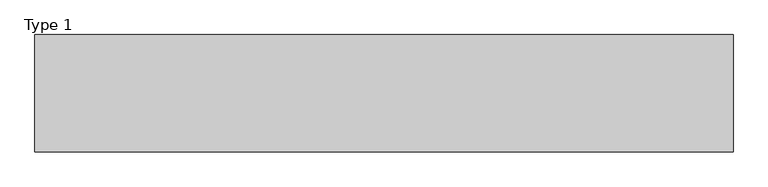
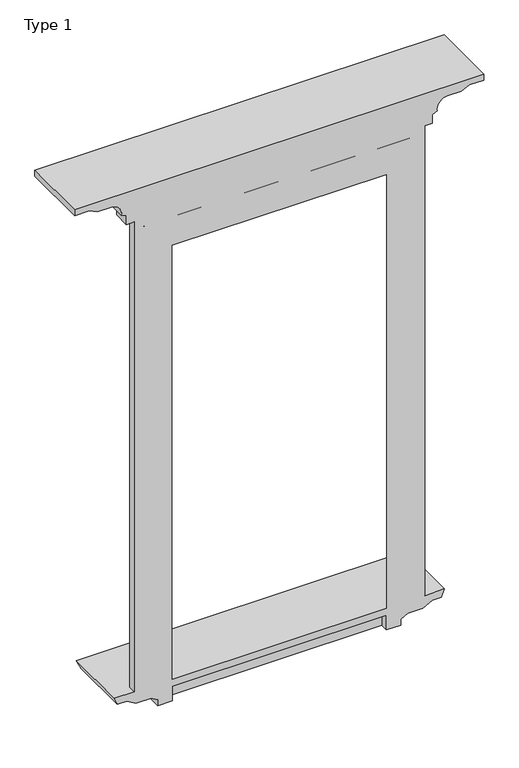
"""IFC4 building model written with IfcOpenShell, lengths in millimetres: proxy geometry, Family1.rfa122231 : Type 1."""

from ifc_helpers import new_model, si_unit, frame, origin, place, context, project, spatial, polyline, circle_curve, ellipse_curve, source, transform, mapped, element, save
from ifc_brep_helpers import plane_surface, revolved_surface, advanced_brep


def type_1_4bf1130a(model_context):
    return source(origin(), model_context, "Body", "AdvancedBrep", [
        advanced_brep(
        [(-1215.0, 300.0, 4370.0), (-1215.0, 300.0, 4330.0), (-1120.0, 300.0, 4330.0), (-1065.6215328, 300.0, 4304.6429043), (-975.6215328, 300.0, 4304.6429043), (-908.1288338, 300.0, 4224.2082378), (-876.4080612, 300.0, 4209.4165986), (-876.4080612, 300.0, 4150.0), (-825.0, 300.0, 4150.0), (-825.0, 300.0, 900.0), (-955.0, 300.0, 900.0), (-935.3873986, 300.0, 850.0), (-875.0, 300.0, 850.0), (-814.3782217, 300.0, 815.0), (-714.3782217, 300.0, 815.0), (-671.0769515, 300.0, 790.0), (-671.0769515, 300.0, 750.0), (-575.0, 300.0, 750.0), (-575.0, 300.0, 850.0), (825.0, 300.0, 850.0), (825.0, 300.0, 750.0), (921.0769515, 300.0, 750.0), (921.0769515, 300.0, 790.0), (964.3782217, 300.0, 815.0), (1064.3782217, 300.0, 815.0), (1125.0, 300.0, 850.0), (1185.3873986, 300.0, 850.0), (1205.0, 300.0, 900.0), (1075.0, 300.0, 900.0), (1075.0, 300.0, 4150.0), (1125.7862829, 300.0, 4150.0), (1125.7862829, 300.0, 4209.4165986), (1157.5070555, 300.0, 4224.2082378), (1224.9997545, 300.0, 4304.6429043), (1314.9997545, 300.0, 4304.6429043), (1369.3782217, 300.0, 4330.0), (1464.3782217, 300.0, 4330.0), (1464.3782217, 300.0, 4370.0), (825.0, 300.0, 3900.0), (825.0, 300.0, 900.0), (-575.0, 300.0, 900.0), (-575.0, 300.0, 3900.0), (1464.3782217, 750.0, 4370.0), (-1215.0, 750.0, 4370.0), (-1215.0, 750.0, 4330.0), (1464.3782217, 750.0, 4330.0), (1369.3782217, 655.0, 4330.0), (-1120.0, 655.0, 4330.0), (-1065.6215328, 600.6215328, 4304.6429043), (1314.9997545, 600.6215328, 4304.6429043), (1224.9997545, 510.6215328, 4304.6429043), (-975.6215328, 510.6215328, 4304.6429043), (-908.1288338, 443.1288338, 4224.2082378), (-876.4080612, 411.4080612, 4209.4165986), (-876.4080612, 411.4080612, 4150.0), (1125.7862829, 411.4080612, 4150.0), (1075.0, 350.7652476, 4150.0), (-825.0, 350.7652476, 4150.0), (1157.5070555, 443.1288338, 4224.2082378), (1125.7862829, 411.4080612, 4209.4165986), (-800.2409318, 350.0, 4118.6790562), (1050.2409318, 350.0, 4118.6790562), (1043.6790562, 331.9713952, 4118.6790562), (-793.6790562, 331.9713952, 4118.6790562), (-800.2409318, 350.0, 4125.2409318), (1050.2409318, 350.0, 4125.2409318), (847.4975663, 326.8115555, 3922.4975663), (847.4975663, 326.8115555, 900.0), (-597.4975663, 326.8115555, 3922.4975663), (-597.4975663, 326.8115555, 900.0), (-637.4975663, 326.8115555, 900.0), (-637.4975663, 326.8115555, 3962.4975663), (887.4975663, 326.8115555, 3962.4975663), (887.4975663, 326.8115555, 900.0), (915.7237184, 328.4289525, 3990.7237184), (915.7237184, 328.4289525, 900.0), (-665.7237184, 328.4289525, 3990.7237184), (-665.7237184, 328.4289525, 900.0), (-695.7237184, 328.4289525, 900.0), (-695.7237184, 328.4289525, 4020.7237184), (945.7237184, 328.4289525, 4020.7237184), (945.7237184, 328.4289525, 900.0), (976.2275363, 350.0, 4051.2275363), (976.2275363, 350.0, 900.0), (-726.2275363, 350.0, 4051.2275363), (-726.2275363, 350.0, 900.0), (-752.6137347, 350.0, 900.0), (-752.6137347, 350.0, 4077.6137347), (1002.6137347, 350.0, 4077.6137347), (1002.6137347, 350.0, 900.0), (1003.6790562, 331.9713952, 4078.6790562), (1003.6790562, 331.9713952, 900.0), (-753.6790562, 331.9713952, 4078.6790562), (-753.6790562, 331.9713952, 900.0), (-793.6790562, 331.9713952, 900.0), (1043.6790562, 331.9713952, 900.0), (1050.5194591, 350.7652476, 4125.5194591), (1050.5194591, 350.7652476, 900.0), (-800.5194591, 350.7652476, 4125.5194591), (-800.5194591, 350.7652476, 900.0), (-825.0, 350.7652476, 900.0), (1075.0, 350.7652476, 900.0), (-955.0, 730.0, 900.0), (-935.3873986, 710.3873986, 850.0), (1185.3873986, 710.3873986, 850.0), (1125.0, 650.0, 850.0), (-875.0, 650.0, 850.0), (-814.3782217, 589.3782217, 815.0), (1064.3782217, 589.3782217, 815.0), (964.3782217, 489.3782217, 815.0), (-714.3782217, 489.3782217, 815.0), (-671.0769515, 446.0769515, 790.0), (-671.0769515, 446.0769515, 750.0), (921.0769515, 446.0769515, 750.0), (825.0, 350.0, 750.0), (-575.0, 350.0, 750.0), (-575.0, 350.0, 850.0), (1205.0, 730.0, 900.0), (921.0769515, 446.0769515, 790.0), (825.0, 350.0, 850.0)],
        [
            (0, 1),
            (1, 2),
            (2, 3),
            (3, 4),
            (4, 5, circle_curve(frame((-975.6215328, 300.0, 4236.1090216), z_axis=(0.0, 1.0, 0.0), x_axis=(-1.0, 0.0, 0.0)), 68.5338827)),
            (5, 6),
            (6, 7),
            (7, 8),
            (8, 9),
            (9, 10),
            (10, 11),
            (11, 12),
            (12, 13),
            (13, 14),
            (14, 15),
            (15, 16),
            (16, 17),
            (17, 18),
            (18, 19),
            (19, 20),
            (20, 21),
            (21, 22),
            (22, 23),
            (23, 24),
            (24, 25),
            (25, 26),
            (26, 27),
            (27, 28),
            (28, 29),
            (29, 30),
            (30, 31),
            (31, 32),
            (32, 33, circle_curve(frame((1224.9997545, 300.0, 4236.1090216), z_axis=(0.0, 1.0, 0.0), x_axis=(1.0, 0.0, 0.0)), 68.5338827)),
            (33, 34),
            (34, 35),
            (35, 36),
            (36, 37),
            (37, 0),
            (38, 39),
            (39, 40),
            (40, 41),
            (41, 38),
            (37, 42),
            (42, 43),
            (43, 0),
            (43, 44),
            (44, 1),
            (44, 45),
            (45, 36),
            (35, 46),
            (46, 47),
            (47, 2),
            (47, 48),
            (48, 3),
            (48, 49),
            (49, 34),
            (33, 50),
            (50, 51),
            (51, 4),
            (51, 52, ellipse_curve(frame((-975.6215328, 510.6215328, 4236.1090216), z_axis=(0.7071067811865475, 0.7071067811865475, 0.0), x_axis=(-0.7071067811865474, 0.7071067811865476, 0.0)), 96.9215464, 68.5338827)),
            (52, 5),
            (52, 53),
            (53, 6),
            (53, 54),
            (54, 7),
            (54, 55),
            (55, 30),
            (29, 56),
            (56, 57),
            (57, 8),
            (42, 45),
            (46, 49),
            (50, 58, ellipse_curve(frame((1224.9997545, 510.6215328, 4236.1090216), z_axis=(0.7071067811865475, -0.7071067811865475, 0.0), x_axis=(0.7071067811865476, 0.7071067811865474, 0.0)), 96.9215464, 68.5338827)),
            (58, 52),
            (58, 59),
            (59, 53),
            (59, 55),
            (32, 58),
            (31, 59),
            (60, 61),
            (61, 62),
            (62, 63),
            (63, 60),
            (60, 64),
            (64, 65),
            (65, 61),
            (38, 66),
            (66, 67),
            (67, 39),
            (66, 68),
            (68, 69),
            (69, 70),
            (70, 71),
            (71, 72),
            (72, 73),
            (73, 67),
            (72, 74, ellipse_curve(frame((901.2586589, 333.7629252, 3976.2586589), z_axis=(-0.7071067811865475, 0.0, 0.7071067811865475), x_axis=(0.7071067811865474, 0.0, 0.7071067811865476)), 21.8031745, 15.4171726)),
            (74, 75),
            (75, 73, circle_curve(frame((901.2586589, 333.7629252, 900.0), z_axis=(0.0, 0.0, -1.0), x_axis=(1.0, 0.0, 0.0)), 15.4171726)),
            (74, 76),
            (76, 77),
            (77, 78),
            (78, 79),
            (79, 80),
            (80, 81),
            (81, 75),
            (80, 82),
            (82, 83),
            (83, 81),
            (82, 84),
            (84, 85),
            (85, 86),
            (86, 87),
            (87, 88),
            (88, 89),
            (89, 83),
            (88, 90, ellipse_curve(frame((1003.6104256, 341.0131174, 4078.6104256), z_axis=(-0.7071067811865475, 0.0, 0.7071067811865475), x_axis=(0.7071067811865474, 0.0, 0.7071067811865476)), 12.7872946, 9.0419827)),
            (90, 91),
            (91, 89, circle_curve(frame((1003.6104256, 341.0131174, 900.0), z_axis=(0.0, 0.0, -1.0), x_axis=(1.0, 0.0, 0.0)), 9.0419827)),
            (90, 92),
            (92, 93),
            (93, 94),
            (94, 63),
            (62, 95),
            (95, 91),
            (65, 96),
            (96, 97),
            (97, 95),
            (96, 98),
            (98, 99),
            (99, 100),
            (100, 57),
            (56, 101),
            (101, 97),
            (28, 101),
            (41, 68),
            (71, 76, ellipse_curve(frame((-651.2586589, 333.7629252, 3976.2586589), z_axis=(-0.7071067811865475, 0.0, -0.7071067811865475), x_axis=(-0.7071067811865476, 0.0, 0.7071067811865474)), 21.8031745, 15.4171726)),
            (79, 84),
            (87, 92, ellipse_curve(frame((-753.6104256, 341.0131174, 4078.6104256), z_axis=(-0.7071067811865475, 0.0, -0.7071067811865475), x_axis=(-0.7071067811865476, 0.0, 0.7071067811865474)), 12.7872946, 9.0419827)),
            (64, 98),
            (40, 69),
            (70, 77, circle_curve(frame((-651.2586589, 333.7629252, 900.0), z_axis=(0.0, 0.0, -1.0), x_axis=(-1.0, 0.0, 0.0)), 15.4171726)),
            (78, 85),
            (86, 93, circle_curve(frame((-753.6104256, 341.0131174, 900.0), z_axis=(0.0, 0.0, -1.0), x_axis=(-1.0, 0.0, 0.0)), 9.0419827)),
            (94, 99),
            (100, 9),
            (10, 102),
            (102, 103),
            (103, 11),
            (103, 104),
            (104, 26),
            (25, 105),
            (105, 106),
            (106, 12),
            (106, 107),
            (107, 13),
            (107, 108),
            (108, 24),
            (23, 109),
            (109, 110),
            (110, 14),
            (110, 111),
            (111, 15),
            (111, 112),
            (112, 16),
            (112, 113),
            (113, 21),
            (20, 114),
            (114, 115),
            (115, 17),
            (115, 116),
            (116, 18),
            (27, 117),
            (117, 102),
            (117, 104),
            (105, 108),
            (109, 118),
            (118, 111),
            (118, 113),
            (114, 119),
            (119, 116),
            (22, 118),
            (19, 119),
        ],
        [
            plane_surface(frame((-815.0, 300.0, 4150.0), z_axis=(0.0, -1.0, 0.0), x_axis=(0.0, 0.0, 1.0))),
            plane_surface(frame((-815.0, 300.0, 4370.0), z_axis=(0.0, 0.0, 1.0), x_axis=(0.0, 1.0, 0.0))),
            plane_surface(frame((-1215.0, 300.0, 4370.0), z_axis=(-1.0, 0.0, 0.0), x_axis=(0.0, 1.0, 0.0))),
            plane_surface(frame((-1215.0, 300.0, 4330.0), z_axis=(0.0, 0.0, -1.0), x_axis=(0.0, 1.0, 0.0))),
            plane_surface(frame((-1120.0, 300.0, 4330.0), z_axis=(-0.42261826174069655, 0.0, -0.9063077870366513), x_axis=(0.0, 1.0, 0.0))),
            plane_surface(frame((-1065.6215328, 300.0, 4304.6429043), z_axis=(0.0, 0.0, -1.0), x_axis=(0.0, 1.0, 0.0))),
            revolved_surface(polyline([(-1044.1554155, 579.1554155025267, 4236.1090216), (-1044.1554155, 300.0, 4236.1090216)]), (-975.6215328, 300.0, 4236.1090216), (0.0, 1.0, 0.0)),
            plane_surface(frame((-908.1288338, 300.0, 4224.2082378), z_axis=(-0.4226182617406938, 0.0, -0.9063077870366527), x_axis=(0.0, 1.0, 0.0))),
            plane_surface(frame((-876.4080612, 300.0, 4209.4165986), z_axis=(-1.0, 0.0, 0.0), x_axis=(0.0, 1.0, 0.0))),
            plane_surface(frame((-876.4080612, 300.0, 4150.0), z_axis=(0.0, 0.0, -1.0), x_axis=(0.0, 1.0, 0.0))),
            plane_surface(frame((-1215.0, 750.0, 4370.0), z_axis=(0.0, 1.0, 0.0), x_axis=(1.0, 0.0, 0.0))),
            plane_surface(frame((-1120.0, 655.0, 4330.0), z_axis=(0.0, 0.42261826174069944, -0.9063077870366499), x_axis=(1.0, 0.0, 0.0))),
            revolved_surface(polyline([(1293.5336372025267, 579.1554155, 4236.1090216), (-1044.1554155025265, 579.1554155, 4236.1090216)]), (-815.0, 510.6215328, 4236.1090216), (1.0, 0.0, 0.0)),
            plane_surface(frame((-908.1288338, 443.1288338, 4224.2082378), z_axis=(0.0, 0.42261826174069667, -0.9063077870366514), x_axis=(1.0, 0.0, 0.0))),
            plane_surface(frame((-876.4080612, 411.4080612, 4209.4165986), z_axis=(0.0, 1.0, 0.0), x_axis=(1.0, 0.0, 0.0))),
            plane_surface(frame((1464.3782217, 750.0, 4370.0), z_axis=(1.0, 0.0, 0.0), x_axis=(0.0, -1.0, 0.0))),
            plane_surface(frame((1369.3782217, 655.0, 4330.0), z_axis=(0.42261826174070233, 0.0, -0.9063077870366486), x_axis=(0.0, -1.0, 0.0))),
            revolved_surface(polyline([(1293.5336372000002, 300.0, 4236.1090216), (1293.5336372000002, 579.1554155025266, 4236.1090216)]), (1224.9997545, 350.0, 4236.1090216), (0.0, -1.0, 0.0)),
            plane_surface(frame((1157.5070555, 443.1288338, 4224.2082378), z_axis=(0.42261826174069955, 0.0, -0.90630778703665), x_axis=(0.0, -1.0, 0.0))),
            plane_surface(frame((1125.7862829, 411.4080612, 4209.4165986), z_axis=(1.0, 0.0, 0.0), x_axis=(0.0, -1.0, 0.0))),
            plane_surface(frame((1064.3782217, 350.0, 4118.6790562), z_axis=(0.0, 0.0, -1.0), x_axis=(1.0, 0.0, 0.0))),
            plane_surface(frame((1064.3782217, 350.0, 4370.0), z_axis=(0.0, 1.0, 0.0), x_axis=(0.0, 0.0, -1.0))),
            plane_surface(frame((825.0, 300.0, 900.0), z_axis=(-0.7660444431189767, 0.642787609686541, 0.0), x_axis=(0.0, 0.0, 1.0))),
            plane_surface(frame((847.4975663, 326.8115555, 900.0), z_axis=(0.0, 1.0, 0.0), x_axis=(0.0, 0.0, 1.0))),
            revolved_surface(polyline([(916.6758315, 333.7629252, 3991.6758314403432), (916.6758315, 333.7629252, 900.0)]), (901.2586589, 333.7629252, 900.0), (0.0, 0.0, 1.0)),
            plane_surface(frame((915.7237184, 328.4289525, 900.0), z_axis=(0.0, 1.0, 0.0), x_axis=(0.0, 0.0, 1.0))),
            plane_surface(frame((945.7237184, 328.4289525, 900.0), z_axis=(-0.5773786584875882, 0.8164765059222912, 0.0), x_axis=(0.0, 0.0, 1.0))),
            plane_surface(frame((976.2275363, 350.0, 900.0), z_axis=(0.0, 1.0, 0.0), x_axis=(0.0, 0.0, 1.0))),
            revolved_surface(polyline([(1012.6524082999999, 341.0131174, 4087.65240832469), (1012.6524082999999, 341.0131174, 900.0)]), (1003.6104256, 341.0131174, 900.0), (0.0, 0.0, 1.0)),
            plane_surface(frame((1003.6790562, 331.9713952, 900.0), z_axis=(0.0, 1.0, 0.0), x_axis=(0.0, 0.0, 1.0))),
            plane_surface(frame((1043.6790562, 331.9713952, 900.0), z_axis=(-0.9396926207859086, 0.34202014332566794, 0.0), x_axis=(0.0, 0.0, 1.0))),
            plane_surface(frame((1050.5194591, 350.7652476, 900.0), z_axis=(0.0, 1.0, 0.0), x_axis=(0.0, 0.0, 1.0))),
            plane_surface(frame((1075.0, 350.7652476, 900.0), z_axis=(1.0, 0.0, 0.0), x_axis=(0.0, 0.0, 1.0))),
            plane_surface(frame((825.0, 300.0, 3900.0), z_axis=(0.0, 0.642787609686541, -0.7660444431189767), x_axis=(-1.0, 0.0, 0.0))),
            revolved_surface(polyline([(-666.6758314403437, 333.7629252, 3991.6758314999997), (916.6758314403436, 333.7629252, 3991.6758314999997)]), (825.0, 333.7629252, 3976.2586589), (-1.0, 0.0, 0.0)),
            plane_surface(frame((945.7237184, 328.4289525, 4020.7237184), z_axis=(0.0, 0.8164765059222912, -0.5773786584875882), x_axis=(-1.0, 0.0, 0.0))),
            revolved_surface(polyline([(-762.65240832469, 341.0131174, 4087.6524083), (1012.6524083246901, 341.0131174, 4087.6524083)]), (825.0, 341.0131174, 4078.6104256), (-1.0, 0.0, 0.0)),
            plane_surface(frame((1043.6790562, 331.9713952, 4118.6790562), z_axis=(0.0, 0.34202014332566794, -0.9396926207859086), x_axis=(-1.0, 0.0, 0.0))),
            plane_surface(frame((-575.0, 300.0, 3900.0), z_axis=(0.7660444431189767, 0.642787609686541, 0.0), x_axis=(0.0, 0.0, -1.0))),
            revolved_surface(polyline([(-666.6758315, 333.7629252, 900.0), (-666.6758315, 333.7629252, 3991.6758314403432)]), (-651.2586589, 333.7629252, 3900.0), (0.0, 0.0, -1.0)),
            plane_surface(frame((-695.7237184, 328.4289525, 4020.7237184), z_axis=(0.5773786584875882, 0.8164765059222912, 0.0), x_axis=(0.0, 0.0, -1.0))),
            revolved_surface(polyline([(-762.6524082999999, 341.0131174, 900.0), (-762.6524082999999, 341.0131174, 4087.65240832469)]), (-753.6104256, 341.0131174, 3900.0), (0.0, 0.0, -1.0)),
            plane_surface(frame((-793.6790562, 331.9713952, 4118.6790562), z_axis=(0.9396926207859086, 0.34202014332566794, 0.0), x_axis=(0.0, 0.0, -1.0))),
            plane_surface(frame((-825.0, 350.7652476, 4150.0), z_axis=(-1.0, 0.0, 0.0), x_axis=(0.0, 0.0, -1.0))),
            plane_surface(frame((-955.0, 300.0, 900.0), z_axis=(-0.9309430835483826, 0.0, -0.36516431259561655), x_axis=(0.0, 1.0, 0.0))),
            plane_surface(frame((-935.3873986, 300.0, 850.0), z_axis=(0.0, 0.0, -1.0), x_axis=(0.0, 1.0, 0.0))),
            plane_surface(frame((-875.0, 300.0, 850.0), z_axis=(-0.5000000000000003, 0.0, -0.8660254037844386), x_axis=(0.0, 1.0, 0.0))),
            plane_surface(frame((-814.3782217, 300.0, 815.0), z_axis=(0.0, 0.0, -1.0), x_axis=(0.0, 1.0, 0.0))),
            plane_surface(frame((-714.3782217, 300.0, 815.0), z_axis=(-0.49999999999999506, 0.0, -0.8660254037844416), x_axis=(0.0, 1.0, 0.0))),
            plane_surface(frame((-671.0769515, 300.0, 790.0), z_axis=(-1.0, 0.0, 0.0), x_axis=(0.0, 1.0, 0.0))),
            plane_surface(frame((-671.0769515, 300.0, 750.0), z_axis=(0.0, 0.0, -1.0), x_axis=(0.0, 1.0, 0.0))),
            plane_surface(frame((-575.0, 300.0, 750.0), z_axis=(1.0, 0.0, 0.0), x_axis=(0.0, 1.0, 0.0))),
            plane_surface(frame((-575.0, 300.0, 900.0), z_axis=(0.0, 0.0, 1.0), x_axis=(0.0, 1.0, 0.0))),
            plane_surface(frame((-955.0, 730.0, 900.0), z_axis=(0.0, 0.9309430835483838, -0.3651643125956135), x_axis=(1.0, 0.0, 0.0))),
            plane_surface(frame((-875.0, 650.0, 850.0), z_axis=(0.0, 0.5000000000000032, -0.8660254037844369), x_axis=(1.0, 0.0, 0.0))),
            plane_surface(frame((-714.3782217, 489.3782217, 815.0), z_axis=(0.0, 0.4999999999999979, -0.8660254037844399), x_axis=(1.0, 0.0, 0.0))),
            plane_surface(frame((-671.0769515, 446.0769515, 790.0), z_axis=(0.0, 1.0, 0.0), x_axis=(1.0, 0.0, 0.0))),
            plane_surface(frame((-575.0, 350.0, 750.0), z_axis=(0.0, -1.0, 0.0), x_axis=(1.0, 0.0, 0.0))),
            plane_surface(frame((1205.0, 730.0, 900.0), z_axis=(0.9309430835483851, 0.0, -0.36516431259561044), x_axis=(0.0, -1.0, 0.0))),
            plane_surface(frame((1125.0, 650.0, 850.0), z_axis=(0.5000000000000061, 0.0, -0.8660254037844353), x_axis=(0.0, -1.0, 0.0))),
            plane_surface(frame((964.3782217, 489.3782217, 815.0), z_axis=(0.5000000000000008, 0.0, -0.8660254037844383), x_axis=(0.0, -1.0, 0.0))),
            plane_surface(frame((921.0769515, 446.0769515, 790.0), z_axis=(1.0, 0.0, 0.0), x_axis=(0.0, -1.0, 0.0))),
            plane_surface(frame((825.0, 350.0, 750.0), z_axis=(-1.0, 0.0, 0.0), x_axis=(0.0, -1.0, 0.0))),
            plane_surface(frame((825.0, 350.0, 850.0), z_axis=(0.0, 0.0, -1.0), x_axis=(0.0, -1.0, 0.0))),
        ],
        [
            (0, [[1, 2, 3, 4, 5, 6, 7, 8, 9, 10, 11, 12, 13, 14, 15, 16, 17, 18, 19, 20, 21, 22, 23, 24, 25, 26, 27, 28, 29, 30, 31, 32, 33, 34, 35, 36, 37, 38], [39, 40, 41, 42]]),
            (1, [[43, 44, 45, -38]]),
            (2, [[-1, -45, 46, 47]]),
            (3, [[-2, -47, 48, 49, -36, 50, 51, 52]]),
            (4, [[-3, -52, 53, 54]]),
            (5, [[-4, -54, 55, 56, -34, 57, 58, 59]]),
            (6, [[-5, -59, 60, 61]]),
            (7, [[-6, -61, 62, 63]]),
            (8, [[-7, -63, 64, 65]]),
            (9, [[-65, 66, 67, -30, 68, 69, 70, -8]]),
            (10, [[-44, 71, -48, -46]]),
            (11, [[-51, 72, -55, -53]]),
            (12, [[-58, 73, 74, -60]]),
            (13, [[-62, -74, 75, 76]]),
            (14, [[-64, -76, 77, -66]]),
            (15, [[-43, -37, -49, -71]]),
            (16, [[-50, -35, -56, -72]]),
            (17, [[-57, -33, 78, -73]]),
            (18, [[-75, -78, -32, 79]]),
            (19, [[-67, -77, -79, -31]]),
            (20, [[80, 81, 82, 83]]),
            (21, [[-80, 84, 85, 86]]),
            (22, [[-39, 87, 88, 89]]),
            (23, [[-88, 90, 91, 92, 93, 94, 95, 96]]),
            (24, [[-95, 97, 98, 99]]),
            (25, [[-98, 100, 101, 102, 103, 104, 105, 106]]),
            (26, [[-105, 107, 108, 109]]),
            (27, [[-108, 110, 111, 112, 113, 114, 115, 116]]),
            (28, [[-115, 117, 118, 119]]),
            (29, [[-118, 120, 121, 122, 123, -82, 124, 125]]),
            (30, [[-124, -81, -86, 126, 127, 128]]),
            (31, [[-127, 129, 130, 131, 132, -69, 133, 134]]),
            (32, [[-29, 135, -133, -68]]),
            (33, [[-42, 136, -90, -87]]),
            (34, [[-94, 137, -100, -97]]),
            (35, [[-104, 138, -110, -107]]),
            (36, [[-114, 139, -120, -117]]),
            (37, [[-129, -126, -85, 140]]),
            (38, [[-41, 141, -91, -136]]),
            (39, [[-93, 142, -101, -137]]),
            (40, [[-103, 143, -111, -138]]),
            (41, [[-113, 144, -121, -139]]),
            (42, [[-123, 145, -130, -140, -84, -83]]),
            (43, [[-9, -70, -132, 146]]),
            (44, [[-11, 147, 148, 149]]),
            (45, [[-12, -149, 150, 151, -26, 152, 153, 154]]),
            (46, [[-13, -154, 155, 156]]),
            (47, [[-14, -156, 157, 158, -24, 159, 160, 161]]),
            (48, [[-15, -161, 162, 163]]),
            (49, [[-16, -163, 164, 165]]),
            (50, [[-17, -165, 166, 167, -21, 168, 169, 170]]),
            (51, [[-170, 171, 172, -18]]),
            (52, [[-147, -10, -146, -131, -145, -122, -144, -112, -143, -102, -142, -92, -141, -40, -89, -96, -99, -106, -109, -116, -119, -125, -128, -134, -135, -28, 173, 174]]),
            (53, [[-148, -174, 175, -150]]),
            (54, [[-153, 176, -157, -155]]),
            (55, [[-160, 177, 178, -162]]),
            (56, [[-164, -178, 179, -166]]),
            (57, [[-169, 180, 181, -171]]),
            (58, [[-151, -175, -173, -27]]),
            (59, [[-152, -25, -158, -176]]),
            (60, [[-159, -23, 182, -177]]),
            (61, [[-167, -179, -182, -22]]),
            (62, [[-168, -20, 183, -180]]),
            (63, [[-19, -172, -181, -183]]),
        ],
    ),
    ])


if __name__ == "__main__":
    model = new_model("IFC4")
    model_context = context("Model", 3, world=origin())
    ifc_project = project(units=[si_unit("LENGTHUNIT", "METRE", prefix="MILLI")], contexts=[model_context])
    site = spatial("IfcSite", under=ifc_project)
    building = spatial("IfcBuilding", under=site)
    placement = place(None, origin())
    type_1_shape = type_1_4bf1130a(model_context)
    element("IfcBuildingElementProxy", 1, Name="Family1.rfa122231 : Type 1", ObjectType="Family1.rfa122231 : Type 1", at=placement, inside=building, context=model_context, shape_type="MappedRepresentation", body=[
        mapped(type_1_shape, transform((0.0, 0.0, 0.0), x_axis=(1.0, 0.0, 0.0), y_axis=(0.0, 1.0, 0.0), z_axis=(0.0, 0.0, 1.0))),
    ])
    save(model, "model.ifc")
